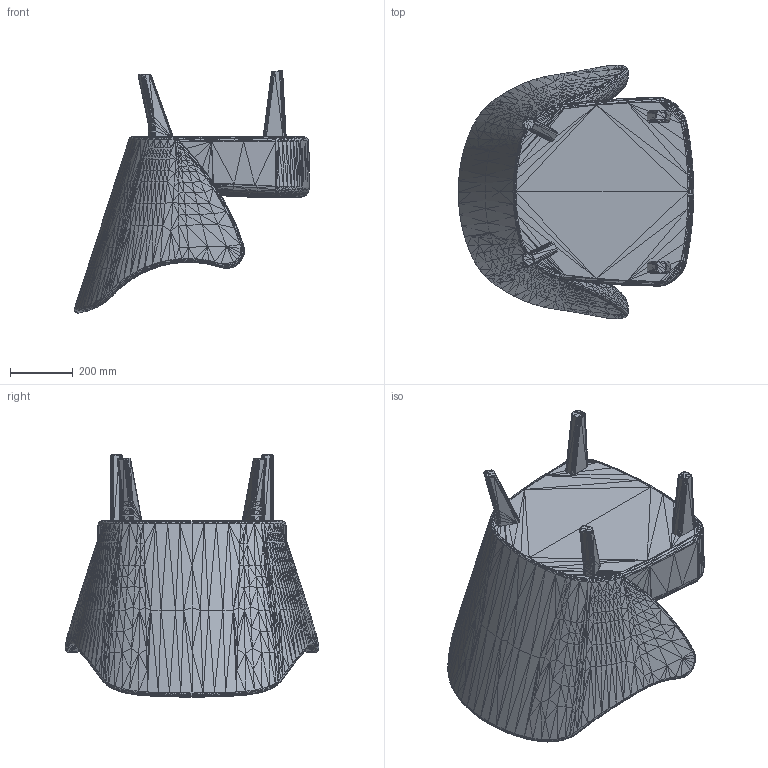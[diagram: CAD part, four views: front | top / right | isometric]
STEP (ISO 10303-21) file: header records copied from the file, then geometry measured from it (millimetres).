
FILE_DESCRIPTION (( 'STEP AP214' ), '1' );
FILE_NAME ('Ingeborg_Lounge_Chair.STEP', '2024-10-21T13:56:50', ( '' ), ( '' ), 'SwSTEP 2.0', 'SolidWorks 2022', '' );
FILE_SCHEMA (( 'AUTOMOTIVE_DESIGN' ));
Length unit declared in the file: millimetre
Products named in the file (1): Ingeborg_Lounge_Chair
Bounding box: 749.49 x 808.24 x 770.9 mm (x, y, z)
Surface area: 2102038.9 mm2 (no closed solid volume)
Topology: 0 solids, 6 shells, 9074 faces, 13611 edges, 4549 vertices
Faces by surface type: plane 9074
Entity records: 177003 total; most frequent: DIRECTION 31761, CARTESIAN_POINT 27235, ORIENTED_EDGE 27222, EDGE_CURVE 13611, LINE 13611, VECTOR 13611, AXIS2_PLACEMENT_3D 9075, PLANE 9074
